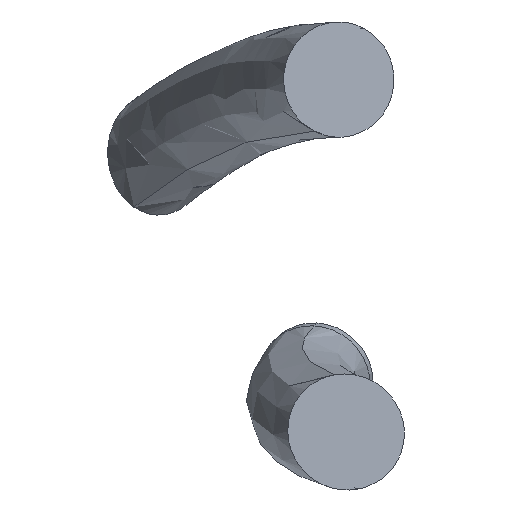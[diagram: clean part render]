
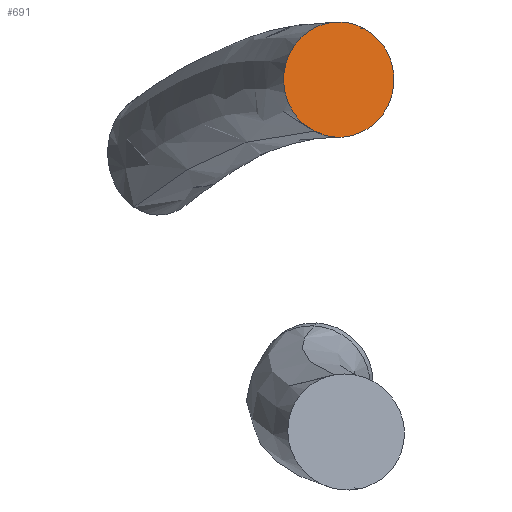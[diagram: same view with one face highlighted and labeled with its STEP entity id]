
A CAD part, top view. The second image highlights one B-rep face of the part: STEP entity #691.
In plain terms, the highlighted planar face has unit normal (0.292, 0, 0.956).
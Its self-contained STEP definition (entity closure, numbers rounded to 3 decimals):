
#258 = EDGE_CURVE ( 'NONE', #991, #729, #1674, .T. ) ;
#539 = DIRECTION ( 'NONE',  ( 0.292, 0., 0.956 ) ) ;
#577 = FACE_OUTER_BOUND ( 'NONE', #969, .T. ) ;
#584 = EDGE_CURVE ( 'NONE', #729, #991, #1381, .T. ) ;
#670 = DIRECTION ( 'NONE',  ( 0.292, 0., 0.956 ) ) ;
#691 = ADVANCED_FACE ( 'NONE', ( #577 ), #1121, .T. ) ;
#729 = VERTEX_POINT ( 'NONE', #1277 ) ;
#801 = AXIS2_PLACEMENT_3D ( 'NONE', #1370, #670, #1101 ) ;
#891 = AXIS2_PLACEMENT_3D ( 'NONE', #1092, #539, #1108 ) ;
#969 = EDGE_LOOP ( 'NONE', ( #1117, #1264 ) ) ;
#991 = VERTEX_POINT ( 'NONE', #1325 ) ;
#1038 = AXIS2_PLACEMENT_3D ( 'NONE', #1286, #1152, #1132 ) ;
#1092 = CARTESIAN_POINT ( 'NONE',  ( 422.093, -245.074, 960.014 ) ) ;
#1101 = DIRECTION ( 'NONE',  ( -0.429, -0.894, 0.131 ) ) ;
#1108 = DIRECTION ( 'NONE',  ( -0.429, -0.894, 0.131 ) ) ;
#1117 = ORIENTED_EDGE ( 'NONE', *, *, #584, .T. ) ;
#1121 = PLANE ( 'NONE',  #1038 ) ;
#1132 = DIRECTION ( 'NONE',  ( -0.429, -0.894, 0.131 ) ) ;
#1152 = DIRECTION ( 'NONE',  ( 0.292, 0., 0.956 ) ) ;
#1264 = ORIENTED_EDGE ( 'NONE', *, *, #258, .T. ) ;
#1277 = CARTESIAN_POINT ( 'NONE',  ( 412.442, -265.184, 962.965 ) ) ;
#1286 = CARTESIAN_POINT ( 'NONE',  ( 422.093, -245.074, 960.014 ) ) ;
#1325 = CARTESIAN_POINT ( 'NONE',  ( 431.745, -224.965, 957.063 ) ) ;
#1370 = CARTESIAN_POINT ( 'NONE',  ( 422.093, -245.074, 960.014 ) ) ;
#1381 = CIRCLE ( 'NONE', #801, 22.5 ) ;
#1674 = CIRCLE ( 'NONE', #891, 22.5 ) ;
